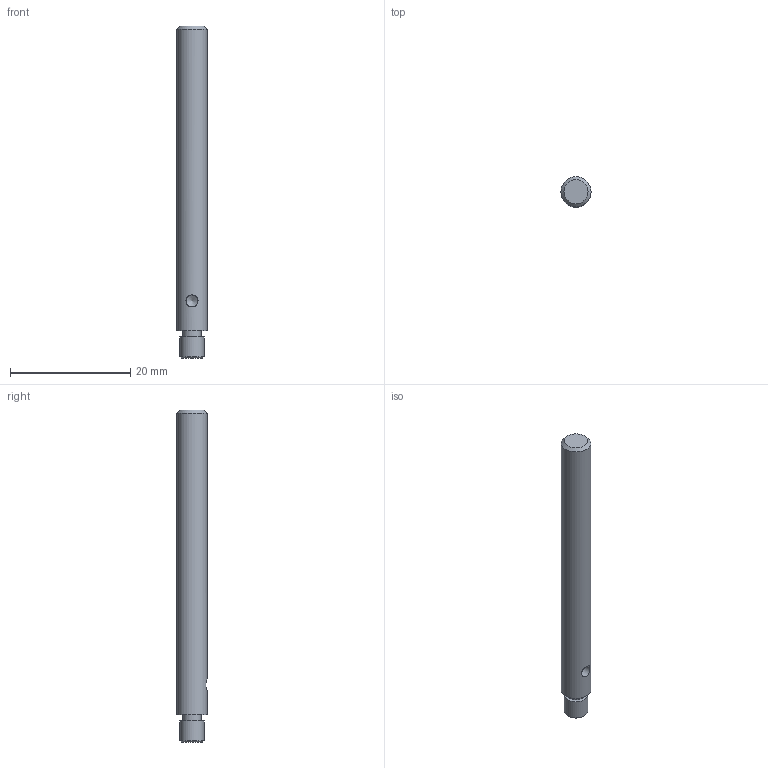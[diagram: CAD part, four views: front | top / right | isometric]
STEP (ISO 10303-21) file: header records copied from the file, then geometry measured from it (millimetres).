
FILE_DESCRIPTION(/* description */ (''),/* implementation_level */ '2;1');
FILE_NAME(/* name */ 'Y:\2_OpticalHard\08_Cage Systems\C30ｼﾘｰｽﾞ\C30-PCRO-50.8\C30-PCRO-50.8.stp',/* time_stamp */ '2018-09-05T14:07:05+09:00',/* author */ ('e.nonaka'),/* organization */ (''),/* preprocessor_version */ 'ST-DEVELOPER v17',/* originating_system */ 'Autodesk Inventor 2018',/* authorisation */ '');
FILE_SCHEMA (('AUTOMOTIVE_DESIGN { 1 0 10303 214 3 1 1 }'));
Length unit declared in the file: millimetre
Products named in the file (1): C30PCRO50.8-M02-18001-TS01
Bounding box: 5 x 5 x 55.3 mm (x, y, z)
Volume: 1033.4 mm3; surface area: 920.1 mm2
Topology: 1 solids, 1 shells, 11 faces, 22 edges, 15 vertices
Faces by surface type: cylinder 4, plane 4, cone 3
Full cylindrical faces by diameter (mm): 2 x1, 3 x1, 4 x1, 5 x1
Entity records: 370 total; most frequent: CARTESIAN_POINT 84, DIRECTION 53, ORIENTED_EDGE 42, AXIS2_PLACEMENT_3D 23, EDGE_CURVE 21, VERTEX_POINT 15, EDGE_LOOP 14, STYLED_ITEM 12
